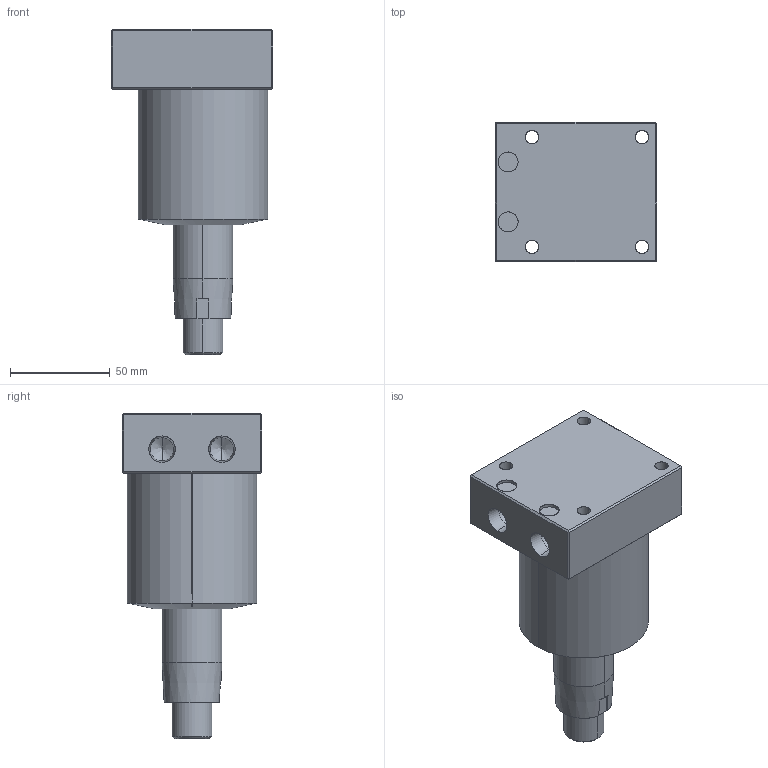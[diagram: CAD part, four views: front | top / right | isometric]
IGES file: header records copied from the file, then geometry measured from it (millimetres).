
Start section: SolidWorks IGES file using analytic representation for surfaces
Global section: file name: E:\ALL SSVT IGS MODEL\ALL-SWING-IGS\SWING.-65\SB03-651-RH-LH-BM-TAPER\SB03-652-LH-BM-TAPER.IGS; native system: SolidWorks 2019; preprocessor: SolidWorks 2019; author: SSVT; date: 210823.103909; units: millimetre
Bounding box: 81 x 70 x 163 mm (x, y, z)
Surface area: 55242.2 mm2 (no closed solid volume)
Topology: 0 solids, 0 shells, 70 faces, 1138 edges, 1134 vertices
Faces by surface type: revolution 38, bspline 32
